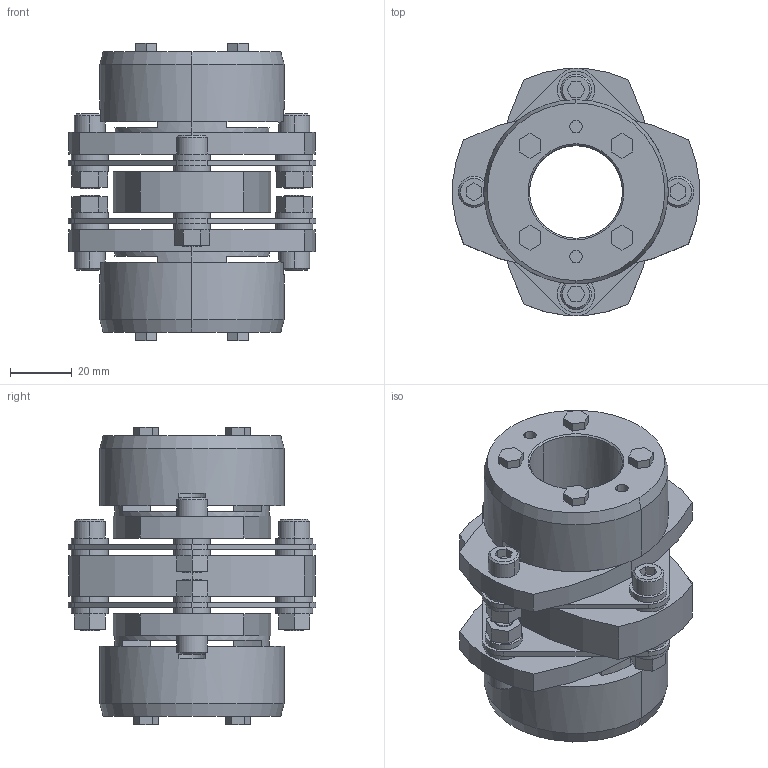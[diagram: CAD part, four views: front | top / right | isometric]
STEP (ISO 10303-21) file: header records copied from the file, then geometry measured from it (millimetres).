
FILE_DESCRIPTION((''),'2;1');
FILE_NAME('LCD-80T7-30×30.stp','2011-09-15T16:00:07',(''),(''),'AutoCAD STEP 2000i','AutoCAD 2000i',', , ');
FILE_SCHEMA(('CONFIG_CONTROL_DESIGN'));
Length unit declared in the file: millimetre
Products named in the file (11): LCD-80T7-30×30; 忣兜1; LC80T7-T030-1; LC80T7-T030; LC80T7-T028; LC80T7-T024; LC80T7-T022; LC80T7-T019; LC80T7-T017-1; LC80T7-T017; LCD80-ITA
Assembly tree (10 placements, depth 2):
  LCD-80T7-30×30
    忣兜1
    LC80T7-T030-1
    LC80T7-T030
    LC80T7-T028
    LC80T7-T024
    LC80T7-T022
    LC80T7-T019
    LC80T7-T017-1
    LC80T7-T017
    LCD80-ITA
Bounding box: 80 x 79.95 x 96.1 mm (x, y, z)
Volume: 186368.1 mm3; surface area: 59149.8 mm2
Topology: 1 solids, 1 shells, 342 faces, 840 edges, 552 vertices
Faces by surface type: plane 194, cylinder 124, cone 24
Entity records: 10415 total; most frequent: DIRECTION 1842, CARTESIAN_POINT 1745, ORIENTED_EDGE 1680, EDGE_CURVE 840, AXIS2_PLACEMENT_3D 649, VERTEX_POINT 552, VECTOR 544, LINE 544
